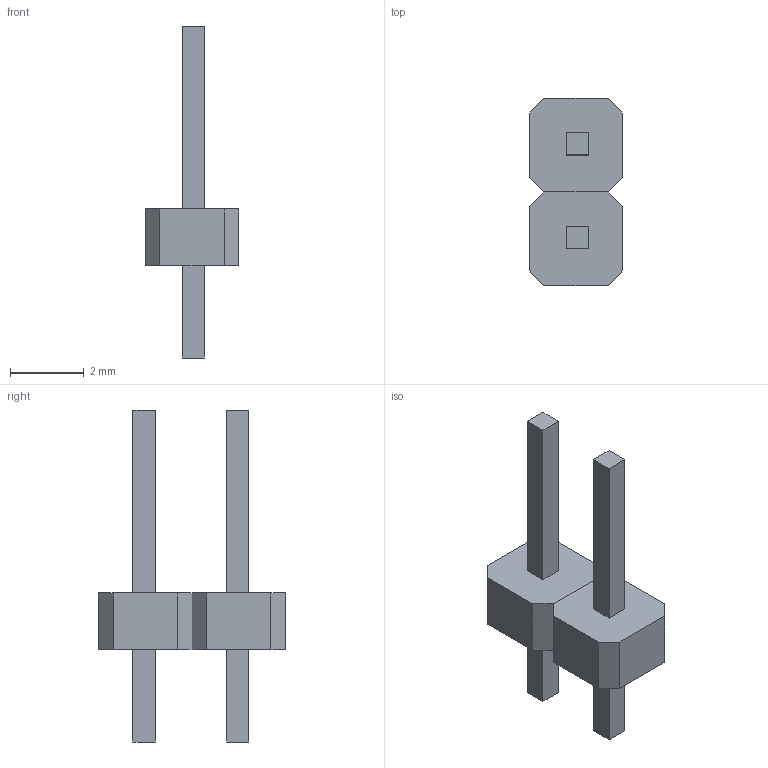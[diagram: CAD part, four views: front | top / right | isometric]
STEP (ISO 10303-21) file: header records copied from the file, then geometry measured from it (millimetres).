
FILE_DESCRIPTION(('FreeCAD Model'),'2;1');
FILE_NAME('Open CASCADE Shape Model','2025-02-25T20:15:48',( 'Krisjanis Rijnieks'),(''),'Open CASCADE STEP processor 7.7', 'FreeCAD','Unknown');
FILE_SCHEMA(('AUTOMOTIVE_DESIGN { 1 0 10303 214 1 1 1 1 }'));
Length unit declared in the file: millimetre
Products named in the file (5): 01x02_P2.54mm_Vertical_THT; 01x01_P2.54mm_Vertical_THT004; PinHeader004; 01x01_P2.54mm_Vertical_THT005; PinHeader005
Assembly tree (4 placements, depth 3):
  01x02_P2.54mm_Vertical_THT
    01x01_P2.54mm_Vertical_THT004
      PinHeader004
    01x01_P2.54mm_Vertical_THT005
      PinHeader005
Bounding box: 2.54 x 5.08 x 9 mm (x, y, z)
Volume: 24.3 mm3; surface area: 88.7 mm2
Topology: 2 solids, 2 shells, 40 faces, 96 edges, 64 vertices
Faces by surface type: plane 40
Entity records: 1383 total; most frequent: CARTESIAN_POINT 205, ORIENTED_EDGE 192, DIRECTION 186, EDGE_CURVE 96, LINE 96, VECTOR 96, VERTEX_POINT 64, AXIS2_PLACEMENT_3D 45
